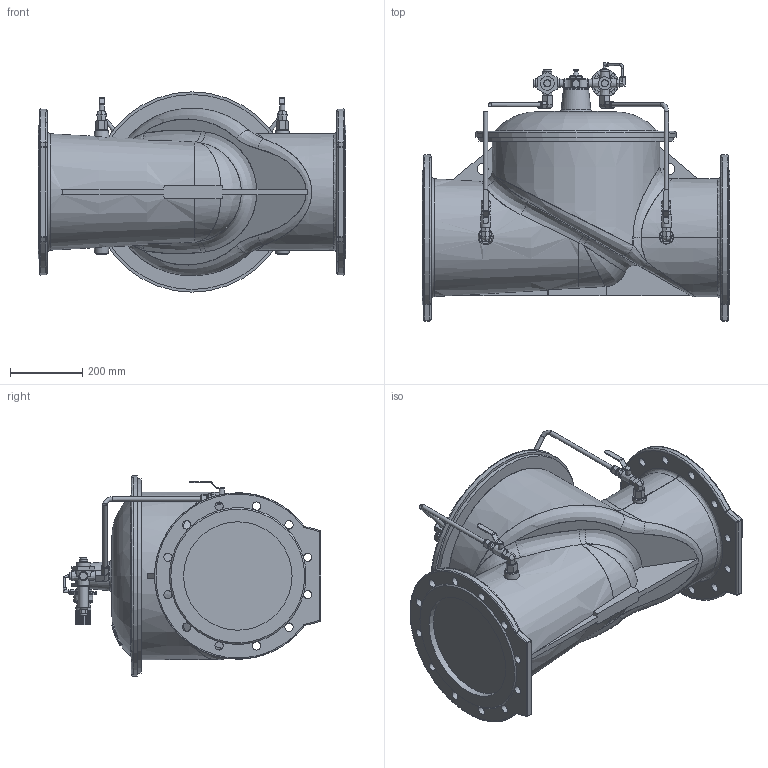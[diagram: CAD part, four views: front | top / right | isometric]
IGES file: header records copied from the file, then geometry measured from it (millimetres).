
Start section: SolidWorks IGES file using analytic representation for surfaces
Global section: file name: \\avksan2\techshare\PBM outline export from Enovia\O_859_00_DN300_0XXXX00_REV01.igs; native system: SolidWorks 2019; preprocessor: SolidWorks 2019; author: pbm; date: 201117.130426; units: millimetre
Bounding box: 850 x 713.33 x 554 mm (x, y, z)
Surface area: 2142776.2 mm2 (no closed solid volume)
Topology: 0 solids, 1 shells, 898 faces, 4385 edges, 4255 vertices
Faces by surface type: bspline 589, revolution 309
